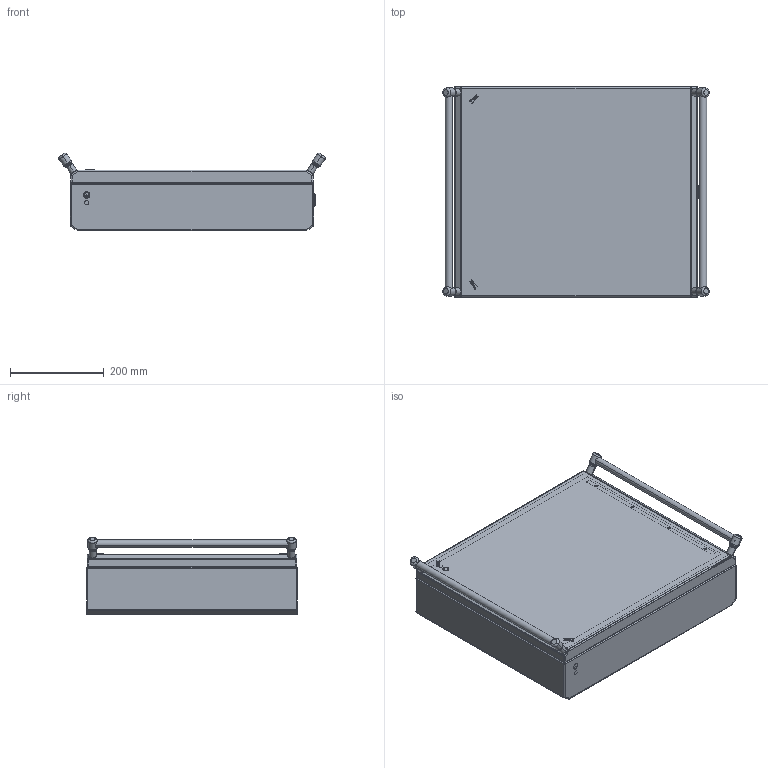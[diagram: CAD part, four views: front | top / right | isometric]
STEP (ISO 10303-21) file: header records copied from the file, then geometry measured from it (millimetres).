
FILE_DESCRIPTION (( 'STEP AP203' ), '1' );
FILE_NAME ('BK54AM-COM.step', '2023-09-19T13:19:57', ( '' ), ( '' ), 'SwSTEP 2.0', 'SolidWorks 2021', '' );
FILE_SCHEMA (( 'CONFIG_CONTROL_DESIGN' ));
Length unit declared in the file: millimetre
Products named in the file (20): OLD-ADMT_ADMT; 1000-u183^ SG215S_Assiemi Box serie BK33-BK75M; Scarpetta Box serie BK; 1000-02-RA_1^ 1000-U134_ SG215S_Assiemi Box serie BK33-BK75M; Staffa Serraggio Box BK_SSBKH450;  1000-U134^ SG215S_Assiemi Box serie BK33-BK75M; Fasciame FABK33- FABK75M_FABK54; Guarnizione Schiumata 13x6.5_GBK54-GBK54M; BK54AM-COM; 1000-03-PG^1000-u183_ SG215S_Assiemi Box serie BK33-BK75M; 1000-24^1000-u183_ SG215S_Assiemi Box serie BK33-BK75M; PRM615TL316; 1000-277-01PI^1000-u183_ SG215S_Assiemi Box serie BK33-BK75M; Parte7^ SG215S_Assiemi Box serie BK33-BK75M; LOGO_ILINOX; Porte Box BK33-BK75M_POBK54M; 1000-156-01^1000-u183_ SG215S_Assiemi Box serie BK33-BK75M;  SG215S^Assiemi Box serie BK33-BK75M_Chiusura_BASSO; Tubo maniglia Box BK H300-H550_TMBK450; 1000-101-GPF_GPD_1^ 1000-U134_ SG215S_Assiemi Box serie BK33-BK75M
Assembly tree (25 placements, depth 4):
  BK54AM-COM
    Fasciame FABK33- FABK75M_FABK54
    Porte Box BK33-BK75M_POBK54M
    Guarnizione Schiumata 13x6.5_GBK54-GBK54M
    Staffa Serraggio Box BK_SSBKH450
    Scarpetta Box serie BK
    Tubo maniglia Box BK H300-H550_TMBK450  x2
     SG215S^Assiemi Box serie BK33-BK75M_Chiusura_BASSO
       1000-U134^ SG215S_Assiemi Box serie BK33-BK75M
        1000-101-GPF_GPD_1^ 1000-U134_ SG215S_Assiemi Box serie BK33-BK75M
        1000-02-RA_1^ 1000-U134_ SG215S_Assiemi Box serie BK33-BK75M
      1000-u183^ SG215S_Assiemi Box serie BK33-BK75M
        1000-156-01^1000-u183_ SG215S_Assiemi Box serie BK33-BK75M
        1000-03-PG^1000-u183_ SG215S_Assiemi Box serie BK33-BK75M
        1000-24^1000-u183_ SG215S_Assiemi Box serie BK33-BK75M
        1000-277-01PI^1000-u183_ SG215S_Assiemi Box serie BK33-BK75M
      Parte7^ SG215S_Assiemi Box serie BK33-BK75M
    OLD-ADMT_ADMT  x2
    LOGO_ILINOX  x2
    PRM615TL316  x4
Bounding box: 569.31 x 450 x 166.07 mm (x, y, z)
Volume: 1504297.8 mm3; surface area: 1690996.4 mm2
Topology: 47 solids, 54 shells, 1251 faces, 2899 edges, 1762 vertices
Faces by surface type: plane 596, cylinder 438, cone 72, torus 64, sphere 50, bspline 31
Entity records: 33899 total; most frequent: CARTESIAN_POINT 8158, DIRECTION 5179, ORIENTED_EDGE 4675, EDGE_CURVE 2341, AXIS2_PLACEMENT_3D 1973, VERTEX_POINT 1444, VECTOR 1233, LINE 1233
